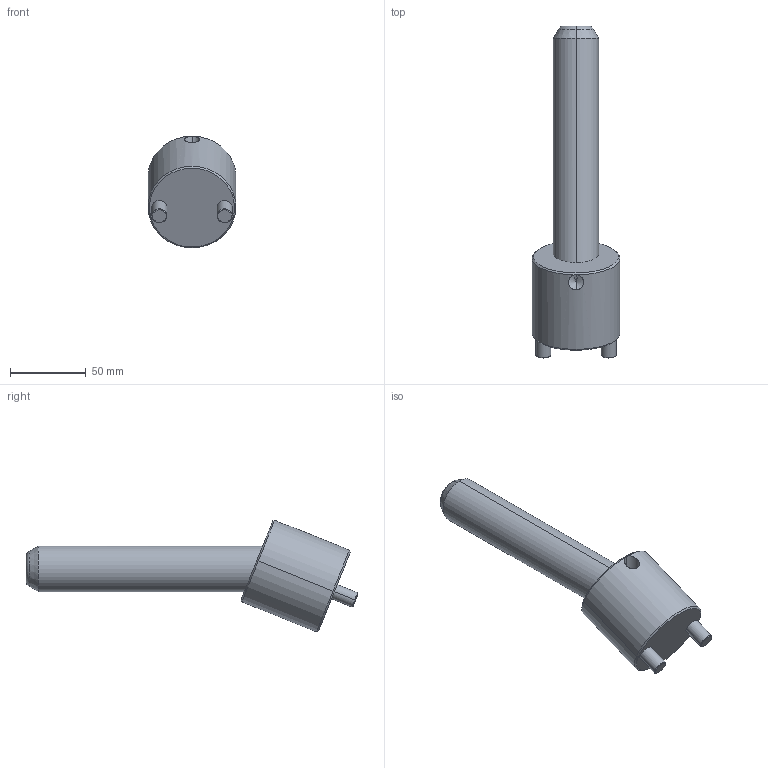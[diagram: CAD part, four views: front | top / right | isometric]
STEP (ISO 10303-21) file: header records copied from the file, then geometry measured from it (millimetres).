
FILE_DESCRIPTION(('CATIA V5 STEP Exchange'),'2;1');
FILE_NAME('C:\Users\Raffaele\Desktop\3D BOLEX\3D FILES CF BOLEX\19-INCLINED ASSEMBLY REF_CI\CI2230150.stp','2019-06-24T06:59:29+00:00',('none'),('none'),'CATIA Version 5 Release 20 GA (IN-10)','CATIA V5 STEP AP203','none');
FILE_SCHEMA(('CONFIG_CONTROL_DESIGN'));
Length unit declared in the file: millimetre
Products named in the file (1): CI2230150
Assembly tree (2 placements, depth 2):
  CI2230150
    #58
    #584
Bounding box: 58 x 218.84 x 73.63 mm (x, y, z)
Volume: 249803.8 mm3; surface area: 40148.7 mm2
Topology: 2 solids, 2 shells, 39 faces, 85 edges, 49 vertices
Faces by surface type: cone 14, cylinder 14, plane 7, torus 4
Entity records: 1576 total; most frequent: CARTESIAN_POINT 699, ORIENTED_EDGE 166, DIRECTION 148, EDGE_CURVE 83, AXIS2_PLACEMENT_3D 75, VERTEX_POINT 49, EDGE_LOOP 42, ADVANCED_FACE 39
